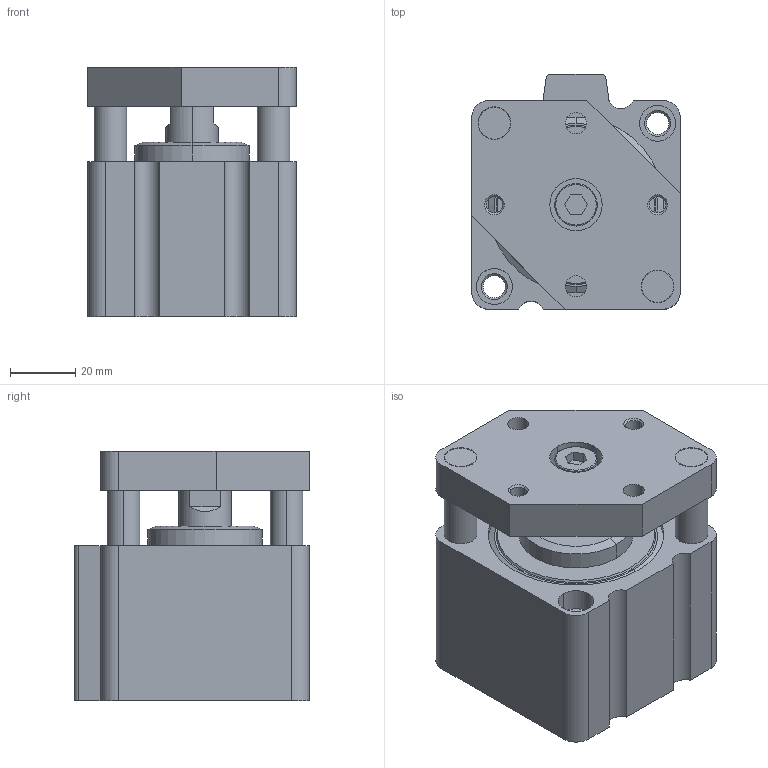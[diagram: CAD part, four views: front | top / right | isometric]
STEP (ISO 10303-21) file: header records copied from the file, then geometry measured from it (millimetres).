
FILE_DESCRIPTION((''),'2;1');
FILE_NAME('0822010762_ASM','2015-07-01T',('vol1hc'),(''),'PRO/ENGINEER BY PARAMETRIC TECHNOLOGY CORPORATION, 2012421','PRO/ENGINEER BY PARAMETRIC TECHNOLOGY CORPORATION, 2012421','');
FILE_SCHEMA(('CONFIG_CONTROL_DESIGN','SHAPE_APPEARANCE_LAYERS_GROUPS'));
Length unit declared in the file: millimetre
Products named in the file (3): 0822010762-A; 0822010762-B; 0822010762_ASM
Assembly tree (2 placements, depth 2):
  0822010762_ASM
    0822010762-A
    0822010762-B
Bounding box: 64 x 72 x 76.5 mm (x, y, z)
Volume: 209151.4 mm3; surface area: 61492.3 mm2
Topology: 2 solids, 2 shells, 182 faces, 410 edges, 262 vertices
Faces by surface type: cylinder 82, plane 60, cone 34, torus 6
Entity records: 5293 total; most frequent: DIRECTION 1000, CARTESIAN_POINT 876, ORIENTED_EDGE 820, EDGE_CURVE 410, AXIS2_PLACEMENT_3D 405, VERTEX_POINT 262, EDGE_LOOP 228, CIRCLE 218
